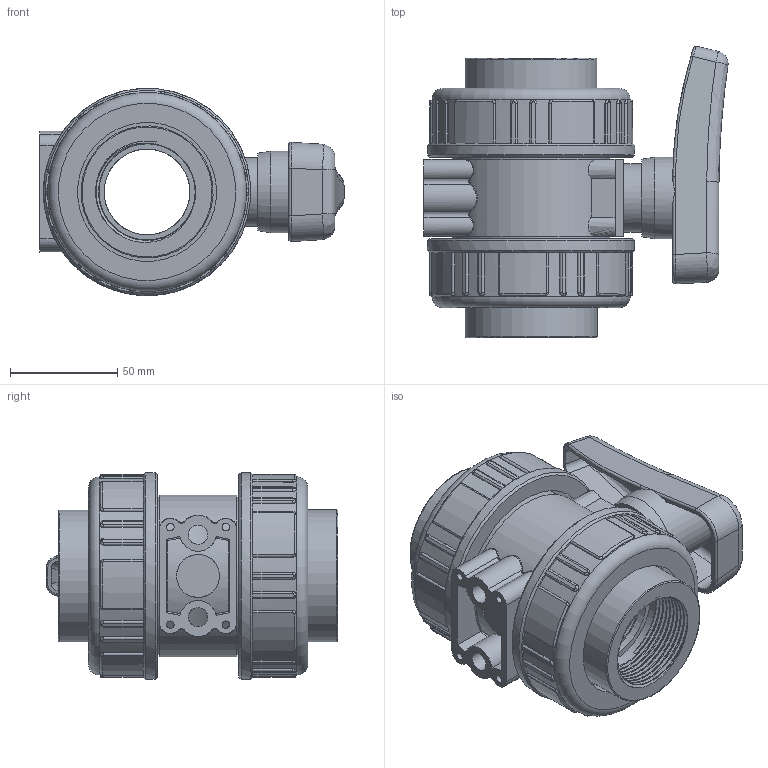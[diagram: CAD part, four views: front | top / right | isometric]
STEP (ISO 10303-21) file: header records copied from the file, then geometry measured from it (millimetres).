
FILE_DESCRIPTION(/* description */ (''),/* implementation_level */ '2;1');
FILE_NAME(/* name */ 'C:\Users\POLYPIPE\Desktop\DATASET INVENTOR\LIBRERIA EFFAST\3D_VALVOLE\3D_VALVOLE A SFERA\3D_BK1\3D_BERBK1E\3D_BERBK1E050F.stp',/* time_stamp */ '2018-01-24T08:52:04+01:00',/* author */ ('POLYPIPE'),/* organization */ (''),/* preprocessor_version */ 'ST-DEVELOPER v16.1',/* originating_system */ 'Autodesk Inventor 2016',/* authorisation */ '');
FILE_SCHEMA (('CONFIG_CONTROL_DESIGN'));
Products named in the file (1): 3D_BERBK1E050F
Bounding box: 141.54 x 135.66 x 96.45 mm (x, y, z)
Volume: 551381.5 mm3; surface area: 143699.2 mm2
Topology: 3 solids, 3 shells, 630 faces, 1545 edges, 950 vertices
Faces by surface type: cylinder 209, plane 203, bspline 189, torus 20, cone 5, sphere 4
Full cylindrical faces by diameter (mm): 3.1 x4, 3.5 x4, 9 x2, 20 x1, 31.8 x1, 38 x1, 39.9 x1, 40 x2, 44.6 x1, 44.845 x2, 55.6 x1, 60.9 x1, 61.5 x2, 64.7 x2, 72 x2, 73.3 x2, 78.5 x2, 92.5 x2, 96.5 x2
Entity records: 70524 total; most frequent: CARTESIAN_POINT 56130, ORIENTED_EDGE 2958, DIRECTION 2595, EDGE_CURVE 1479, AXIS2_PLACEMENT_3D 1000, VERTEX_POINT 928, EDGE_LOOP 711, STYLED_ITEM 633
